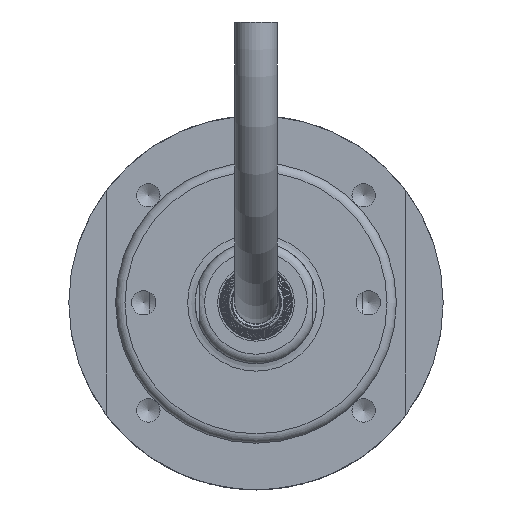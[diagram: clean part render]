
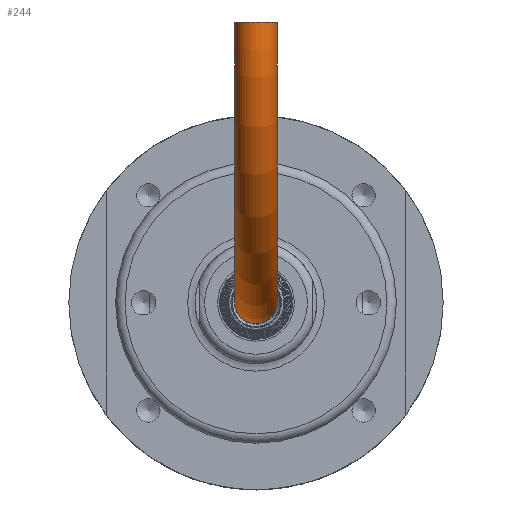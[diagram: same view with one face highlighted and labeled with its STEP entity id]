
A CAD part, front view. The second image highlights one B-rep face of the part: STEP entity #244.
In plain terms, the highlighted toroidal (fillet/blend) face has major radius 30 mm and minor radius 2.25 mm.
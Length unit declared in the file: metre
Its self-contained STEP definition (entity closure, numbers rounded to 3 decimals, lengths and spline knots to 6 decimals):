
#244 = ADVANCED_FACE( '', ( #493, #494 ), #495, .T. );
#493 = FACE_OUTER_BOUND( '', #5637, .T. );
#494 = FACE_OUTER_BOUND( '', #5638, .T. );
#495 = TOROIDAL_SURFACE( '', #5639, 0.03, 0.00225 );
#5637 = EDGE_LOOP( '', ( #11675 ) );
#5638 = EDGE_LOOP( '', ( #11676 ) );
#5639 = AXIS2_PLACEMENT_3D( '', #11677, #11678, #11679 );
#11675 = ORIENTED_EDGE( '', *, *, #12054, .T. );
#11676 = ORIENTED_EDGE( '', *, *, #12105, .F. );
#11677 = CARTESIAN_POINT( '', ( 0., -0.043, 0.03 ) );
#11678 = DIRECTION( '', ( -1., 0., 0. ) );
#11679 = DIRECTION( '', ( 0., 1., 0. ) );
#12054 = EDGE_CURVE( '', #12363, #12363, #12364, .T. );
#12105 = EDGE_CURVE( '', #12450, #12450, #12451, .T. );
#12363 = VERTEX_POINT( '', #13746 );
#12364 = CIRCLE( '', #13747, 0.00225 );
#12450 = VERTEX_POINT( '', #14481 );
#12451 = CIRCLE( '', #14482, 0.00225 );
#13746 = CARTESIAN_POINT( '', ( 0.00225, -0.043, 0. ) );
#13747 = AXIS2_PLACEMENT_3D( '', #17428, #17429, #17430 );
#14481 = CARTESIAN_POINT( '', ( 0., -0.07075, 0.03 ) );
#14482 = AXIS2_PLACEMENT_3D( '', #17495, #17496, #17497 );
#17428 = CARTESIAN_POINT( '', ( 0., -0.043, 0. ) );
#17429 = DIRECTION( '', ( 0., -1., 0. ) );
#17430 = DIRECTION( '', ( 1., 0., 0. ) );
#17495 = CARTESIAN_POINT( '', ( 0., -0.073, 0.03 ) );
#17496 = DIRECTION( '', ( 0., 0., 1. ) );
#17497 = DIRECTION( '', ( 0., 1., 0. ) );
